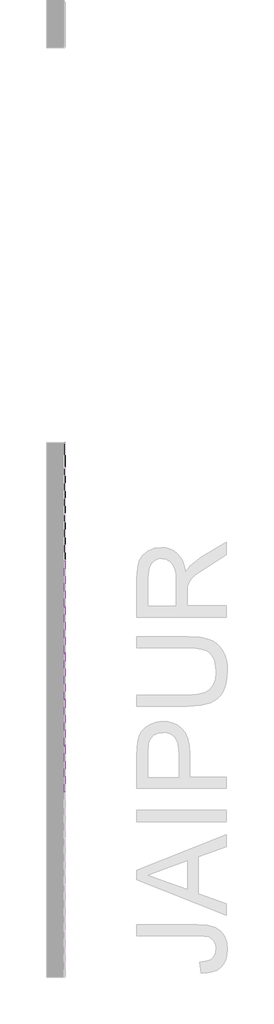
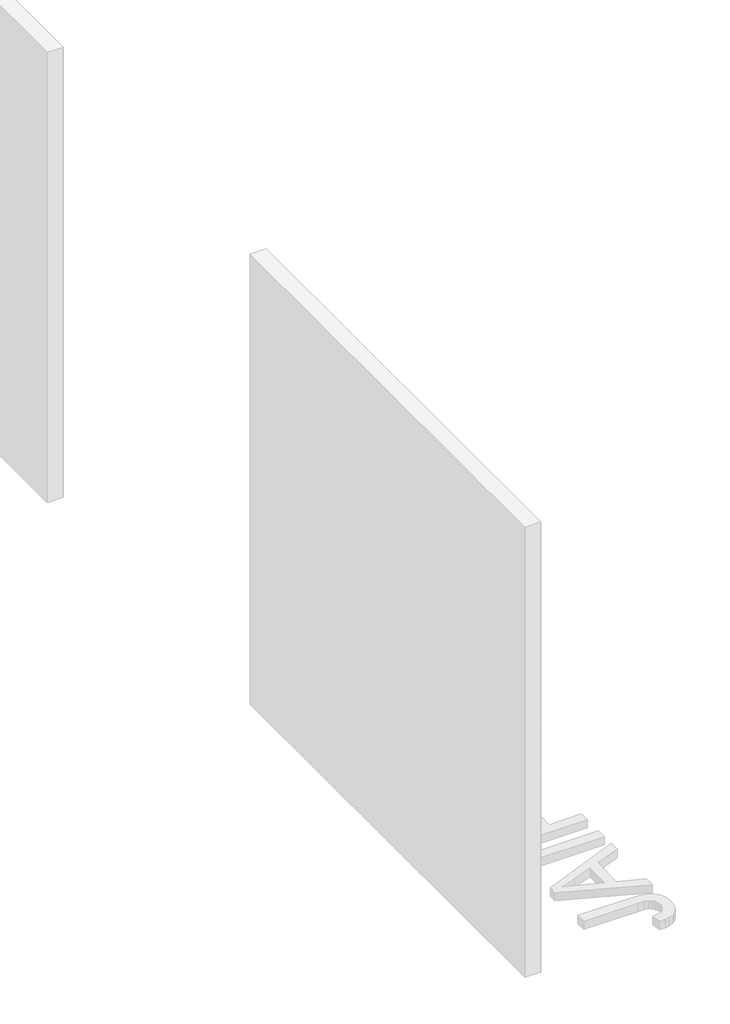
# One storey, part 17 of 45: 147 proxies.
"""IFC4 building model written with IfcOpenShell, lengths in millimetres."""

from ifc_helpers import new_model, si_unit, origin, place, context, project, spatial, transform, mapped, element, save
from components import generic_models_ab0f2c30, generic_models_1527efce

model = new_model("IFC4")

# Units and contexts
model_context = context("Model", 3, world=origin())
ifc_project = project(units=[si_unit("LENGTHUNIT", "METRE", prefix="MILLI")], contexts=[model_context])

# Site, building, storey
site = spatial("IfcSite", under=ifc_project)
building = spatial("IfcBuilding", under=site)
storey = spatial("IfcBuildingStorey", under=building, Name="PORTOBELLO - SHOWROOM", Elevation=0.0)

# Proxies
placement = place(None, origin())
generic_models_shape = generic_models_ab0f2c30(model_context)
element("IfcBuildingElementProxy", 1, Name="PBSHOP - HORIZONTES JAIPUR 6,5X23 : JAIPUR", ObjectType="PBSHOP - HORIZONTES JAIPUR 6,5X23 : JAIPUR", at=placement, inside=storey, context=model_context, shape_type="MappedRepresentation", body=[
    mapped(generic_models_shape, transform((69111.8826867, 3209.9760255, 34.5), x_axis=(0.0, 0.0, 1.0), y_axis=(0.0, -1.0, 0.0), z_axis=(1.0, 0.0, 0.0))),
])
element("IfcBuildingElementProxy", 2, Name="PBSHOP - HORIZONTES JAIPUR 6,5X23 : JAIPUR", ObjectType="PBSHOP - HORIZONTES JAIPUR 6,5X23 : JAIPUR", at=placement, inside=storey, context=model_context, shape_type="MappedRepresentation", body=[
    mapped(generic_models_shape, transform((69111.8826867, 3443.9760255, 34.5), x_axis=(0.0, 0.0, 1.0), y_axis=(0.0, -1.0, 0.0), z_axis=(1.0, 0.0, 0.0))),
])
element("IfcBuildingElementProxy", 3, Name="PBSHOP - HORIZONTES JAIPUR 6,5X23 : JAIPUR", ObjectType="PBSHOP - HORIZONTES JAIPUR 6,5X23 : JAIPUR", at=placement, inside=storey, context=model_context, shape_type="MappedRepresentation", body=[
    mapped(generic_models_shape, transform((69111.8826867, 3209.9760255, 103.5), x_axis=(0.0, 0.0, 1.0), y_axis=(0.0, -1.0, 0.0), z_axis=(1.0, 0.0, 0.0))),
])
element("IfcBuildingElementProxy", 4, Name="PBSHOP - HORIZONTES JAIPUR 6,5X23 : JAIPUR", ObjectType="PBSHOP - HORIZONTES JAIPUR 6,5X23 : JAIPUR", at=placement, inside=storey, context=model_context, shape_type="MappedRepresentation", body=[
    mapped(generic_models_shape, transform((69111.8826867, 3443.9760255, 103.5), x_axis=(0.0, 0.0, 1.0), y_axis=(0.0, -1.0, 0.0), z_axis=(1.0, 0.0, 0.0))),
])
element("IfcBuildingElementProxy", 5, Name="PBSHOP - HORIZONTES JAIPUR 6,5X23 : JAIPUR", ObjectType="PBSHOP - HORIZONTES JAIPUR 6,5X23 : JAIPUR", at=placement, inside=storey, context=model_context, shape_type="MappedRepresentation", body=[
    mapped(generic_models_shape, transform((69111.8826867, 3209.9760255, 172.5), x_axis=(0.0, 0.0, 1.0), y_axis=(0.0, -1.0, 0.0), z_axis=(1.0, 0.0, 0.0))),
])
element("IfcBuildingElementProxy", 6, Name="PBSHOP - HORIZONTES JAIPUR 6,5X23 : JAIPUR", ObjectType="PBSHOP - HORIZONTES JAIPUR 6,5X23 : JAIPUR", at=placement, inside=storey, context=model_context, shape_type="MappedRepresentation", body=[
    mapped(generic_models_shape, transform((69111.8826867, 3443.9760255, 172.5), x_axis=(0.0, 0.0, 1.0), y_axis=(0.0, -1.0, 0.0), z_axis=(1.0, 0.0, 0.0))),
])
element("IfcBuildingElementProxy", 7, Name="PBSHOP - HORIZONTES JAIPUR 6,5X23 : JAIPUR", ObjectType="PBSHOP - HORIZONTES JAIPUR 6,5X23 : JAIPUR", at=placement, inside=storey, context=model_context, shape_type="MappedRepresentation", body=[
    mapped(generic_models_shape, transform((69111.8826867, 3209.9760255, 241.5), x_axis=(0.0, 0.0, 1.0), y_axis=(0.0, -1.0, 0.0), z_axis=(1.0, 0.0, 0.0))),
])
element("IfcBuildingElementProxy", 8, Name="PBSHOP - HORIZONTES JAIPUR 6,5X23 : JAIPUR", ObjectType="PBSHOP - HORIZONTES JAIPUR 6,5X23 : JAIPUR", at=placement, inside=storey, context=model_context, shape_type="MappedRepresentation", body=[
    mapped(generic_models_shape, transform((69111.8826867, 3443.9760255, 241.5), x_axis=(0.0, 0.0, 1.0), y_axis=(0.0, -1.0, 0.0), z_axis=(1.0, 0.0, 0.0))),
])
element("IfcBuildingElementProxy", 9, Name="PBSHOP - HORIZONTES JAIPUR 6,5X23 : JAIPUR", ObjectType="PBSHOP - HORIZONTES JAIPUR 6,5X23 : JAIPUR", at=placement, inside=storey, context=model_context, shape_type="MappedRepresentation", body=[
    mapped(generic_models_shape, transform((69111.8826867, 3209.9760255, 310.5), x_axis=(0.0, 0.0, 1.0), y_axis=(0.0, -1.0, 0.0), z_axis=(1.0, 0.0, 0.0))),
])
element("IfcBuildingElementProxy", 10, Name="PBSHOP - HORIZONTES JAIPUR 6,5X23 : JAIPUR", ObjectType="PBSHOP - HORIZONTES JAIPUR 6,5X23 : JAIPUR", at=placement, inside=storey, context=model_context, shape_type="MappedRepresentation", body=[
    mapped(generic_models_shape, transform((69111.8826867, 3443.9760255, 310.5), x_axis=(0.0, 0.0, 1.0), y_axis=(0.0, -1.0, 0.0), z_axis=(1.0, 0.0, 0.0))),
])
element("IfcBuildingElementProxy", 11, Name="PBSHOP - HORIZONTES JAIPUR 6,5X23 : JAIPUR", ObjectType="PBSHOP - HORIZONTES JAIPUR 6,5X23 : JAIPUR", at=placement, inside=storey, context=model_context, shape_type="MappedRepresentation", body=[
    mapped(generic_models_shape, transform((69111.8826867, 3209.9760255, 379.5), x_axis=(0.0, 0.0, 1.0), y_axis=(0.0, -1.0, 0.0), z_axis=(1.0, 0.0, 0.0))),
])
element("IfcBuildingElementProxy", 12, Name="PBSHOP - HORIZONTES JAIPUR 6,5X23 : JAIPUR", ObjectType="PBSHOP - HORIZONTES JAIPUR 6,5X23 : JAIPUR", at=placement, inside=storey, context=model_context, shape_type="MappedRepresentation", body=[
    mapped(generic_models_shape, transform((69111.8826867, 3443.9760255, 379.5), x_axis=(0.0, 0.0, 1.0), y_axis=(0.0, -1.0, 0.0), z_axis=(1.0, 0.0, 0.0))),
])
element("IfcBuildingElementProxy", 13, Name="PBSHOP - HORIZONTES JAIPUR 6,5X23 : JAIPUR", ObjectType="PBSHOP - HORIZONTES JAIPUR 6,5X23 : JAIPUR", at=placement, inside=storey, context=model_context, shape_type="MappedRepresentation", body=[
    mapped(generic_models_shape, transform((69111.8826867, 3209.9760255, 448.5), x_axis=(0.0, 0.0, 1.0), y_axis=(0.0, -1.0, 0.0), z_axis=(1.0, 0.0, 0.0))),
])
element("IfcBuildingElementProxy", 14, Name="PBSHOP - HORIZONTES JAIPUR 6,5X23 : JAIPUR", ObjectType="PBSHOP - HORIZONTES JAIPUR 6,5X23 : JAIPUR", at=placement, inside=storey, context=model_context, shape_type="MappedRepresentation", body=[
    mapped(generic_models_shape, transform((69111.8826867, 3443.9760255, 448.5), x_axis=(0.0, 0.0, 1.0), y_axis=(0.0, -1.0, 0.0), z_axis=(1.0, 0.0, 0.0))),
])
element("IfcBuildingElementProxy", 15, Name="PBSHOP - HORIZONTES JAIPUR 6,5X23 : JAIPUR", ObjectType="PBSHOP - HORIZONTES JAIPUR 6,5X23 : JAIPUR", at=placement, inside=storey, context=model_context, shape_type="MappedRepresentation", body=[
    mapped(generic_models_shape, transform((69111.8826867, 3209.9760255, 517.5), x_axis=(0.0, 0.0, 1.0), y_axis=(0.0, -1.0, 0.0), z_axis=(1.0, 0.0, 0.0))),
])
element("IfcBuildingElementProxy", 16, Name="PBSHOP - HORIZONTES JAIPUR 6,5X23 : JAIPUR", ObjectType="PBSHOP - HORIZONTES JAIPUR 6,5X23 : JAIPUR", at=placement, inside=storey, context=model_context, shape_type="MappedRepresentation", body=[
    mapped(generic_models_shape, transform((69111.8826867, 3443.9760255, 517.5), x_axis=(0.0, 0.0, 1.0), y_axis=(0.0, -1.0, 0.0), z_axis=(1.0, 0.0, 0.0))),
])
element("IfcBuildingElementProxy", 17, Name="PBSHOP - HORIZONTES JAIPUR 6,5X23 : JAIPUR", ObjectType="PBSHOP - HORIZONTES JAIPUR 6,5X23 : JAIPUR", at=placement, inside=storey, context=model_context, shape_type="MappedRepresentation", body=[
    mapped(generic_models_shape, transform((69111.8826867, 3209.9760255, 586.5), x_axis=(0.0, 0.0, 1.0), y_axis=(0.0, -1.0, 0.0), z_axis=(1.0, 0.0, 0.0))),
])
element("IfcBuildingElementProxy", 18, Name="PBSHOP - HORIZONTES JAIPUR 6,5X23 : JAIPUR", ObjectType="PBSHOP - HORIZONTES JAIPUR 6,5X23 : JAIPUR", at=placement, inside=storey, context=model_context, shape_type="MappedRepresentation", body=[
    mapped(generic_models_shape, transform((69111.8826867, 3443.9760255, 586.5), x_axis=(0.0, 0.0, 1.0), y_axis=(0.0, -1.0, 0.0), z_axis=(1.0, 0.0, 0.0))),
])
element("IfcBuildingElementProxy", 19, Name="PBSHOP - HORIZONTES JAIPUR 6,5X23 : JAIPUR", ObjectType="PBSHOP - HORIZONTES JAIPUR 6,5X23 : JAIPUR", at=placement, inside=storey, context=model_context, shape_type="MappedRepresentation", body=[
    mapped(generic_models_shape, transform((69111.8826867, 3209.9760255, 655.5), x_axis=(0.0, 0.0, 1.0), y_axis=(0.0, -1.0, 0.0), z_axis=(1.0, 0.0, 0.0))),
])
element("IfcBuildingElementProxy", 20, Name="PBSHOP - HORIZONTES JAIPUR 6,5X23 : JAIPUR", ObjectType="PBSHOP - HORIZONTES JAIPUR 6,5X23 : JAIPUR", at=placement, inside=storey, context=model_context, shape_type="MappedRepresentation", body=[
    mapped(generic_models_shape, transform((69111.8826867, 3443.9760255, 655.5), x_axis=(0.0, 0.0, 1.0), y_axis=(0.0, -1.0, 0.0), z_axis=(1.0, 0.0, 0.0))),
])
element("IfcBuildingElementProxy", 21, Name="PBSHOP - HORIZONTES JAIPUR 6,5X23 : JAIPUR", ObjectType="PBSHOP - HORIZONTES JAIPUR 6,5X23 : JAIPUR", at=placement, inside=storey, context=model_context, shape_type="MappedRepresentation", body=[
    mapped(generic_models_shape, transform((69111.8826867, 3209.9760255, 724.5), x_axis=(0.0, 0.0, 1.0), y_axis=(0.0, -1.0, 0.0), z_axis=(1.0, 0.0, 0.0))),
])
element("IfcBuildingElementProxy", 22, Name="PBSHOP - HORIZONTES JAIPUR 6,5X23 : JAIPUR", ObjectType="PBSHOP - HORIZONTES JAIPUR 6,5X23 : JAIPUR", at=placement, inside=storey, context=model_context, shape_type="MappedRepresentation", body=[
    mapped(generic_models_shape, transform((69111.8826867, 3443.9760255, 724.5), x_axis=(0.0, 0.0, 1.0), y_axis=(0.0, -1.0, 0.0), z_axis=(1.0, 0.0, 0.0))),
])
element("IfcBuildingElementProxy", 23, Name="PBSHOP - HORIZONTES JAIPUR 6,5X23 : JAIPUR", ObjectType="PBSHOP - HORIZONTES JAIPUR 6,5X23 : JAIPUR", at=placement, inside=storey, context=model_context, shape_type="MappedRepresentation", body=[
    mapped(generic_models_shape, transform((69111.8826867, 3209.9760255, 793.5), x_axis=(0.0, 0.0, 1.0), y_axis=(0.0, -1.0, 0.0), z_axis=(1.0, 0.0, 0.0))),
])
element("IfcBuildingElementProxy", 24, Name="PBSHOP - HORIZONTES JAIPUR 6,5X23 : JAIPUR", ObjectType="PBSHOP - HORIZONTES JAIPUR 6,5X23 : JAIPUR", at=placement, inside=storey, context=model_context, shape_type="MappedRepresentation", body=[
    mapped(generic_models_shape, transform((69111.8826867, 3443.9760255, 793.5), x_axis=(0.0, 0.0, 1.0), y_axis=(0.0, -1.0, 0.0), z_axis=(1.0, 0.0, 0.0))),
])
element("IfcBuildingElementProxy", 25, Name="PBSHOP - HORIZONTES JAIPUR 6,5X23 : JAIPUR", ObjectType="PBSHOP - HORIZONTES JAIPUR 6,5X23 : JAIPUR", at=placement, inside=storey, context=model_context, shape_type="MappedRepresentation", body=[
    mapped(generic_models_shape, transform((69111.8826867, 3209.9760255, 862.5), x_axis=(0.0, 0.0, 1.0), y_axis=(0.0, -1.0, 0.0), z_axis=(1.0, 0.0, 0.0))),
])
element("IfcBuildingElementProxy", 26, Name="PBSHOP - HORIZONTES JAIPUR 6,5X23 : JAIPUR", ObjectType="PBSHOP - HORIZONTES JAIPUR 6,5X23 : JAIPUR", at=placement, inside=storey, context=model_context, shape_type="MappedRepresentation", body=[
    mapped(generic_models_shape, transform((69111.8826867, 3443.9760255, 862.5), x_axis=(0.0, 0.0, 1.0), y_axis=(0.0, -1.0, 0.0), z_axis=(1.0, 0.0, 0.0))),
])
element("IfcBuildingElementProxy", 27, Name="PBSHOP - HORIZONTES JAIPUR 6,5X23 : JAIPUR", ObjectType="PBSHOP - HORIZONTES JAIPUR 6,5X23 : JAIPUR", at=placement, inside=storey, context=model_context, shape_type="MappedRepresentation", body=[
    mapped(generic_models_shape, transform((69111.8826867, 3209.9760255, 931.5), x_axis=(0.0, 0.0, 1.0), y_axis=(0.0, -1.0, 0.0), z_axis=(1.0, 0.0, 0.0))),
])
element("IfcBuildingElementProxy", 28, Name="PBSHOP - HORIZONTES JAIPUR 6,5X23 : JAIPUR", ObjectType="PBSHOP - HORIZONTES JAIPUR 6,5X23 : JAIPUR", at=placement, inside=storey, context=model_context, shape_type="MappedRepresentation", body=[
    mapped(generic_models_shape, transform((69111.8826867, 3443.9760255, 931.5), x_axis=(0.0, 0.0, 1.0), y_axis=(0.0, -1.0, 0.0), z_axis=(1.0, 0.0, 0.0))),
])
element("IfcBuildingElementProxy", 29, Name="PBSHOP - HORIZONTES JAIPUR 6,5X23 : JAIPUR", ObjectType="PBSHOP - HORIZONTES JAIPUR 6,5X23 : JAIPUR", at=placement, inside=storey, context=model_context, shape_type="MappedRepresentation", body=[
    mapped(generic_models_shape, transform((69111.8826867, 3209.9760255, 1000.5), x_axis=(0.0, 0.0, 1.0), y_axis=(0.0, -1.0, 0.0), z_axis=(1.0, 0.0, 0.0))),
])
element("IfcBuildingElementProxy", 30, Name="PBSHOP - HORIZONTES JAIPUR 6,5X23 : JAIPUR", ObjectType="PBSHOP - HORIZONTES JAIPUR 6,5X23 : JAIPUR", at=placement, inside=storey, context=model_context, shape_type="MappedRepresentation", body=[
    mapped(generic_models_shape, transform((69111.8826867, 3443.9760255, 1000.5), x_axis=(0.0, 0.0, 1.0), y_axis=(0.0, -1.0, 0.0), z_axis=(1.0, 0.0, 0.0))),
])
element("IfcBuildingElementProxy", 31, Name="PBSHOP - HORIZONTES JAIPUR 6,5X23 : JAIPUR", ObjectType="PBSHOP - HORIZONTES JAIPUR 6,5X23 : JAIPUR", at=placement, inside=storey, context=model_context, shape_type="MappedRepresentation", body=[
    mapped(generic_models_shape, transform((69111.8826867, 3209.9760255, 1069.5), x_axis=(0.0, 0.0, 1.0), y_axis=(0.0, -1.0, 0.0), z_axis=(1.0, 0.0, 0.0))),
])
element("IfcBuildingElementProxy", 32, Name="PBSHOP - HORIZONTES JAIPUR 6,5X23 : JAIPUR", ObjectType="PBSHOP - HORIZONTES JAIPUR 6,5X23 : JAIPUR", at=placement, inside=storey, context=model_context, shape_type="MappedRepresentation", body=[
    mapped(generic_models_shape, transform((69111.8826867, 3443.9760255, 1069.5), x_axis=(0.0, 0.0, 1.0), y_axis=(0.0, -1.0, 0.0), z_axis=(1.0, 0.0, 0.0))),
])
element("IfcBuildingElementProxy", 33, Name="PBSHOP - HORIZONTES JAIPUR 6,5X23 : JAIPUR", ObjectType="PBSHOP - HORIZONTES JAIPUR 6,5X23 : JAIPUR", at=placement, inside=storey, context=model_context, shape_type="MappedRepresentation", body=[
    mapped(generic_models_shape, transform((69111.8826867, 3209.9760255, 1138.5), x_axis=(0.0, 0.0, 1.0), y_axis=(0.0, -1.0, 0.0), z_axis=(1.0, 0.0, 0.0))),
])
element("IfcBuildingElementProxy", 34, Name="PBSHOP - HORIZONTES JAIPUR 6,5X23 : JAIPUR", ObjectType="PBSHOP - HORIZONTES JAIPUR 6,5X23 : JAIPUR", at=placement, inside=storey, context=model_context, shape_type="MappedRepresentation", body=[
    mapped(generic_models_shape, transform((69111.8826867, 3443.9760255, 1138.5), x_axis=(0.0, 0.0, 1.0), y_axis=(0.0, -1.0, 0.0), z_axis=(1.0, 0.0, 0.0))),
])
element("IfcBuildingElementProxy", 35, Name="PBSHOP - HORIZONTES JAIPUR 6,5X23 : JAIPUR", ObjectType="PBSHOP - HORIZONTES JAIPUR 6,5X23 : JAIPUR", at=placement, inside=storey, context=model_context, shape_type="MappedRepresentation", body=[
    mapped(generic_models_shape, transform((69111.8826867, 3209.9760255, 1207.5), x_axis=(0.0, 0.0, 1.0), y_axis=(0.0, -1.0, 0.0), z_axis=(1.0, 0.0, 0.0))),
])
element("IfcBuildingElementProxy", 36, Name="PBSHOP - HORIZONTES JAIPUR 6,5X23 : JAIPUR", ObjectType="PBSHOP - HORIZONTES JAIPUR 6,5X23 : JAIPUR", at=placement, inside=storey, context=model_context, shape_type="MappedRepresentation", body=[
    mapped(generic_models_shape, transform((69111.8826867, 3443.9760255, 1207.5), x_axis=(0.0, 0.0, 1.0), y_axis=(0.0, -1.0, 0.0), z_axis=(1.0, 0.0, 0.0))),
])
element("IfcBuildingElementProxy", 37, Name="PBSHOP - HORIZONTES JAIPUR 6,5X23 : JAIPUR", ObjectType="PBSHOP - HORIZONTES JAIPUR 6,5X23 : JAIPUR", at=placement, inside=storey, context=model_context, shape_type="MappedRepresentation", body=[
    mapped(generic_models_shape, transform((69111.8826867, 3209.9760255, 1276.5), x_axis=(0.0, 0.0, 1.0), y_axis=(0.0, -1.0, 0.0), z_axis=(1.0, 0.0, 0.0))),
])
element("IfcBuildingElementProxy", 38, Name="PBSHOP - HORIZONTES JAIPUR 6,5X23 : JAIPUR", ObjectType="PBSHOP - HORIZONTES JAIPUR 6,5X23 : JAIPUR", at=placement, inside=storey, context=model_context, shape_type="MappedRepresentation", body=[
    mapped(generic_models_shape, transform((69111.8826867, 3443.9760255, 1276.5), x_axis=(0.0, 0.0, 1.0), y_axis=(0.0, -1.0, 0.0), z_axis=(1.0, 0.0, 0.0))),
])
element("IfcBuildingElementProxy", 39, Name="PBSHOP - HORIZONTES JAIPUR 6,5X23 : JAIPUR", ObjectType="PBSHOP - HORIZONTES JAIPUR 6,5X23 : JAIPUR", at=placement, inside=storey, context=model_context, shape_type="MappedRepresentation", body=[
    mapped(generic_models_shape, transform((69111.8826867, 3209.9760255, 1345.5), x_axis=(0.0, 0.0, 1.0), y_axis=(0.0, -1.0, 0.0), z_axis=(1.0, 0.0, 0.0))),
])
element("IfcBuildingElementProxy", 40, Name="PBSHOP - HORIZONTES JAIPUR 6,5X23 : JAIPUR", ObjectType="PBSHOP - HORIZONTES JAIPUR 6,5X23 : JAIPUR", at=placement, inside=storey, context=model_context, shape_type="MappedRepresentation", body=[
    mapped(generic_models_shape, transform((69111.8826867, 3443.9760255, 1345.5), x_axis=(0.0, 0.0, 1.0), y_axis=(0.0, -1.0, 0.0), z_axis=(1.0, 0.0, 0.0))),
])
element("IfcBuildingElementProxy", 41, Name="PBSHOP - HORIZONTES JAIPUR 6,5X23 : JAIPUR", ObjectType="PBSHOP - HORIZONTES JAIPUR 6,5X23 : JAIPUR", at=placement, inside=storey, context=model_context, shape_type="MappedRepresentation", body=[
    mapped(generic_models_shape, transform((69111.8826867, 3209.9760255, 1414.5), x_axis=(0.0, 0.0, 1.0), y_axis=(0.0, -1.0, 0.0), z_axis=(1.0, 0.0, 0.0))),
])
element("IfcBuildingElementProxy", 42, Name="PBSHOP - HORIZONTES JAIPUR 6,5X23 : JAIPUR", ObjectType="PBSHOP - HORIZONTES JAIPUR 6,5X23 : JAIPUR", at=placement, inside=storey, context=model_context, shape_type="MappedRepresentation", body=[
    mapped(generic_models_shape, transform((69111.8826867, 3443.9760255, 1414.5), x_axis=(0.0, 0.0, 1.0), y_axis=(0.0, -1.0, 0.0), z_axis=(1.0, 0.0, 0.0))),
])
element("IfcBuildingElementProxy", 43, Name="PBSHOP - HORIZONTES JAIPUR 6,5X23 : JAIPUR", ObjectType="PBSHOP - HORIZONTES JAIPUR 6,5X23 : JAIPUR", at=placement, inside=storey, context=model_context, shape_type="MappedRepresentation", body=[
    mapped(generic_models_shape, transform((69111.8826867, 3209.9760255, 1483.5), x_axis=(0.0, 0.0, 1.0), y_axis=(0.0, -1.0, 0.0), z_axis=(1.0, 0.0, 0.0))),
])
element("IfcBuildingElementProxy", 44, Name="PBSHOP - HORIZONTES JAIPUR 6,5X23 : JAIPUR", ObjectType="PBSHOP - HORIZONTES JAIPUR 6,5X23 : JAIPUR", at=placement, inside=storey, context=model_context, shape_type="MappedRepresentation", body=[
    mapped(generic_models_shape, transform((69111.8826867, 3443.9760255, 1483.5), x_axis=(0.0, 0.0, 1.0), y_axis=(0.0, -1.0, 0.0), z_axis=(1.0, 0.0, 0.0))),
])
element("IfcBuildingElementProxy", 45, Name="PBSHOP - HORIZONTES JAIPUR 6,5X23 : JAIPUR", ObjectType="PBSHOP - HORIZONTES JAIPUR 6,5X23 : JAIPUR", at=placement, inside=storey, context=model_context, shape_type="MappedRepresentation", body=[
    mapped(generic_models_shape, transform((69111.8826867, 3209.9760255, 1552.5), x_axis=(0.0, 0.0, 1.0), y_axis=(0.0, -1.0, 0.0), z_axis=(1.0, 0.0, 0.0))),
])
element("IfcBuildingElementProxy", 46, Name="PBSHOP - HORIZONTES JAIPUR 6,5X23 : JAIPUR", ObjectType="PBSHOP - HORIZONTES JAIPUR 6,5X23 : JAIPUR", at=placement, inside=storey, context=model_context, shape_type="MappedRepresentation", body=[
    mapped(generic_models_shape, transform((69111.8826867, 3443.9760255, 1552.5), x_axis=(0.0, 0.0, 1.0), y_axis=(0.0, -1.0, 0.0), z_axis=(1.0, 0.0, 0.0))),
])
element("IfcBuildingElementProxy", 47, Name="PBSHOP - HORIZONTES JAIPUR 6,5X23 : JAIPUR", ObjectType="PBSHOP - HORIZONTES JAIPUR 6,5X23 : JAIPUR", at=placement, inside=storey, context=model_context, shape_type="MappedRepresentation", body=[
    mapped(generic_models_shape, transform((69111.8826867, 3209.9760255, 1621.5), x_axis=(0.0, 0.0, 1.0), y_axis=(0.0, -1.0, 0.0), z_axis=(1.0, 0.0, 0.0))),
])
element("IfcBuildingElementProxy", 48, Name="PBSHOP - HORIZONTES JAIPUR 6,5X23 : JAIPUR", ObjectType="PBSHOP - HORIZONTES JAIPUR 6,5X23 : JAIPUR", at=placement, inside=storey, context=model_context, shape_type="MappedRepresentation", body=[
    mapped(generic_models_shape, transform((69111.8826867, 3443.9760255, 1621.5), x_axis=(0.0, 0.0, 1.0), y_axis=(0.0, -1.0, 0.0), z_axis=(1.0, 0.0, 0.0))),
])
element("IfcBuildingElementProxy", 49, Name="PBSHOP - HORIZONTES JAIPUR 6,5X23 : JAIPUR", ObjectType="PBSHOP - HORIZONTES JAIPUR 6,5X23 : JAIPUR", at=placement, inside=storey, context=model_context, shape_type="MappedRepresentation", body=[
    mapped(generic_models_shape, transform((69111.8826867, 2975.9760255, 1690.5), x_axis=(0.0, 0.0, 1.0), y_axis=(0.0, -1.0, 0.0), z_axis=(1.0, 0.0, 0.0))),
])
element("IfcBuildingElementProxy", 50, Name="PBSHOP - HORIZONTES JAIPUR 6,5X23 : JAIPUR", ObjectType="PBSHOP - HORIZONTES JAIPUR 6,5X23 : JAIPUR", at=placement, inside=storey, context=model_context, shape_type="MappedRepresentation", body=[
    mapped(generic_models_shape, transform((69111.8826867, 3209.9760255, 1690.5), x_axis=(0.0, 0.0, 1.0), y_axis=(0.0, -1.0, 0.0), z_axis=(1.0, 0.0, 0.0))),
])
element("IfcBuildingElementProxy", 51, Name="PBSHOP - HORIZONTES JAIPUR 6,5X23 : JAIPUR", ObjectType="PBSHOP - HORIZONTES JAIPUR 6,5X23 : JAIPUR", at=placement, inside=storey, context=model_context, shape_type="MappedRepresentation", body=[
    mapped(generic_models_shape, transform((69111.8826867, 3443.9760255, 1690.5), x_axis=(0.0, 0.0, 1.0), y_axis=(0.0, -1.0, 0.0), z_axis=(1.0, 0.0, 0.0))),
])
element("IfcBuildingElementProxy", 52, Name="PBSHOP - HORIZONTES JAIPUR 6,5X23 : JAIPUR", ObjectType="PBSHOP - HORIZONTES JAIPUR 6,5X23 : JAIPUR", at=placement, inside=storey, context=model_context, shape_type="MappedRepresentation", body=[
    mapped(generic_models_shape, transform((69111.8826867, 2039.9760255, 1759.5), x_axis=(0.0, 0.0, 1.0), y_axis=(0.0, -1.0, 0.0), z_axis=(1.0, 0.0, 0.0))),
])
element("IfcBuildingElementProxy", 53, Name="PBSHOP - HORIZONTES JAIPUR 6,5X23 : JAIPUR", ObjectType="PBSHOP - HORIZONTES JAIPUR 6,5X23 : JAIPUR", at=placement, inside=storey, context=model_context, shape_type="MappedRepresentation", body=[
    mapped(generic_models_shape, transform((69111.8826867, 2273.9760255, 1759.5), x_axis=(0.0, 0.0, 1.0), y_axis=(0.0, -1.0, 0.0), z_axis=(1.0, 0.0, 0.0))),
])
element("IfcBuildingElementProxy", 54, Name="PBSHOP - HORIZONTES JAIPUR 6,5X23 : JAIPUR", ObjectType="PBSHOP - HORIZONTES JAIPUR 6,5X23 : JAIPUR", at=placement, inside=storey, context=model_context, shape_type="MappedRepresentation", body=[
    mapped(generic_models_shape, transform((69111.8826867, 2507.9760255, 1759.5), x_axis=(0.0, 0.0, 1.0), y_axis=(0.0, -1.0, 0.0), z_axis=(1.0, 0.0, 0.0))),
])
element("IfcBuildingElementProxy", 55, Name="PBSHOP - HORIZONTES JAIPUR 6,5X23 : JAIPUR", ObjectType="PBSHOP - HORIZONTES JAIPUR 6,5X23 : JAIPUR", at=placement, inside=storey, context=model_context, shape_type="MappedRepresentation", body=[
    mapped(generic_models_shape, transform((69111.8826867, 2741.9760255, 1759.5), x_axis=(0.0, 0.0, 1.0), y_axis=(0.0, -1.0, 0.0), z_axis=(1.0, 0.0, 0.0))),
])
element("IfcBuildingElementProxy", 56, Name="PBSHOP - HORIZONTES JAIPUR 6,5X23 : JAIPUR", ObjectType="PBSHOP - HORIZONTES JAIPUR 6,5X23 : JAIPUR", at=placement, inside=storey, context=model_context, shape_type="MappedRepresentation", body=[
    mapped(generic_models_shape, transform((69111.8826867, 2975.9760255, 1759.5), x_axis=(0.0, 0.0, 1.0), y_axis=(0.0, -1.0, 0.0), z_axis=(1.0, 0.0, 0.0))),
])
element("IfcBuildingElementProxy", 57, Name="PBSHOP - HORIZONTES JAIPUR 6,5X23 : JAIPUR", ObjectType="PBSHOP - HORIZONTES JAIPUR 6,5X23 : JAIPUR", at=placement, inside=storey, context=model_context, shape_type="MappedRepresentation", body=[
    mapped(generic_models_shape, transform((69111.8826867, 3209.9760255, 1759.5), x_axis=(0.0, 0.0, 1.0), y_axis=(0.0, -1.0, 0.0), z_axis=(1.0, 0.0, 0.0))),
])
element("IfcBuildingElementProxy", 58, Name="PBSHOP - HORIZONTES JAIPUR 6,5X23 : JAIPUR", ObjectType="PBSHOP - HORIZONTES JAIPUR 6,5X23 : JAIPUR", at=placement, inside=storey, context=model_context, shape_type="MappedRepresentation", body=[
    mapped(generic_models_shape, transform((69111.8826867, 2039.9760255, 1828.5), x_axis=(0.0, 0.0, 1.0), y_axis=(0.0, -1.0, 0.0), z_axis=(1.0, 0.0, 0.0))),
])
element("IfcBuildingElementProxy", 59, Name="PBSHOP - HORIZONTES JAIPUR 6,5X23 : JAIPUR", ObjectType="PBSHOP - HORIZONTES JAIPUR 6,5X23 : JAIPUR", at=placement, inside=storey, context=model_context, shape_type="MappedRepresentation", body=[
    mapped(generic_models_shape, transform((69111.8826867, 2273.9760255, 1828.5), x_axis=(0.0, 0.0, 1.0), y_axis=(0.0, -1.0, 0.0), z_axis=(1.0, 0.0, 0.0))),
])
element("IfcBuildingElementProxy", 60, Name="PBSHOP - HORIZONTES JAIPUR 6,5X23 : JAIPUR", ObjectType="PBSHOP - HORIZONTES JAIPUR 6,5X23 : JAIPUR", at=placement, inside=storey, context=model_context, shape_type="MappedRepresentation", body=[
    mapped(generic_models_shape, transform((69111.8826867, 2507.9760255, 1828.5), x_axis=(0.0, 0.0, 1.0), y_axis=(0.0, -1.0, 0.0), z_axis=(1.0, 0.0, 0.0))),
])
element("IfcBuildingElementProxy", 61, Name="PBSHOP - HORIZONTES JAIPUR 6,5X23 : JAIPUR", ObjectType="PBSHOP - HORIZONTES JAIPUR 6,5X23 : JAIPUR", at=placement, inside=storey, context=model_context, shape_type="MappedRepresentation", body=[
    mapped(generic_models_shape, transform((69111.8826867, 2741.9760255, 1828.5), x_axis=(0.0, 0.0, 1.0), y_axis=(0.0, -1.0, 0.0), z_axis=(1.0, 0.0, 0.0))),
])
element("IfcBuildingElementProxy", 62, Name="PBSHOP - HORIZONTES JAIPUR 6,5X23 : JAIPUR", ObjectType="PBSHOP - HORIZONTES JAIPUR 6,5X23 : JAIPUR", at=placement, inside=storey, context=model_context, shape_type="MappedRepresentation", body=[
    mapped(generic_models_shape, transform((69111.8826867, 2975.9760255, 1828.5), x_axis=(0.0, 0.0, 1.0), y_axis=(0.0, -1.0, 0.0), z_axis=(1.0, 0.0, 0.0))),
])
element("IfcBuildingElementProxy", 63, Name="PBSHOP - HORIZONTES JAIPUR 6,5X23 : JAIPUR", ObjectType="PBSHOP - HORIZONTES JAIPUR 6,5X23 : JAIPUR", at=placement, inside=storey, context=model_context, shape_type="MappedRepresentation", body=[
    mapped(generic_models_shape, transform((69111.8826867, 2039.9760255, 1897.5), x_axis=(0.0, 0.0, 1.0), y_axis=(0.0, -1.0, 0.0), z_axis=(1.0, 0.0, 0.0))),
])
element("IfcBuildingElementProxy", 64, Name="PBSHOP - HORIZONTES JAIPUR 6,5X23 : JAIPUR", ObjectType="PBSHOP - HORIZONTES JAIPUR 6,5X23 : JAIPUR", at=placement, inside=storey, context=model_context, shape_type="MappedRepresentation", body=[
    mapped(generic_models_shape, transform((69111.8826867, 2273.9760255, 1897.5), x_axis=(0.0, 0.0, 1.0), y_axis=(0.0, -1.0, 0.0), z_axis=(1.0, 0.0, 0.0))),
])
element("IfcBuildingElementProxy", 65, Name="PBSHOP - HORIZONTES JAIPUR 6,5X23 : JAIPUR", ObjectType="PBSHOP - HORIZONTES JAIPUR 6,5X23 : JAIPUR", at=placement, inside=storey, context=model_context, shape_type="MappedRepresentation", body=[
    mapped(generic_models_shape, transform((69111.8826867, 2507.9760255, 1897.5), x_axis=(0.0, 0.0, 1.0), y_axis=(0.0, -1.0, 0.0), z_axis=(1.0, 0.0, 0.0))),
])
element("IfcBuildingElementProxy", 66, Name="PBSHOP - HORIZONTES JAIPUR 6,5X23 : JAIPUR", ObjectType="PBSHOP - HORIZONTES JAIPUR 6,5X23 : JAIPUR", at=placement, inside=storey, context=model_context, shape_type="MappedRepresentation", body=[
    mapped(generic_models_shape, transform((69111.8826867, 2741.9760255, 1897.5), x_axis=(0.0, 0.0, 1.0), y_axis=(0.0, -1.0, 0.0), z_axis=(1.0, 0.0, 0.0))),
])
element("IfcBuildingElementProxy", 67, Name="PBSHOP - HORIZONTES JAIPUR 6,5X23 : JAIPUR", ObjectType="PBSHOP - HORIZONTES JAIPUR 6,5X23 : JAIPUR", at=placement, inside=storey, context=model_context, shape_type="MappedRepresentation", body=[
    mapped(generic_models_shape, transform((69111.8826867, 2975.9760255, 1897.5), x_axis=(0.0, 0.0, 1.0), y_axis=(0.0, -1.0, 0.0), z_axis=(1.0, 0.0, 0.0))),
])
element("IfcBuildingElementProxy", 68, Name="PBSHOP - HORIZONTES JAIPUR 6,5X23 : JAIPUR", ObjectType="PBSHOP - HORIZONTES JAIPUR 6,5X23 : JAIPUR", at=placement, inside=storey, context=model_context, shape_type="MappedRepresentation", body=[
    mapped(generic_models_shape, transform((69111.8826867, 2039.9760255, 1966.5), x_axis=(0.0, 0.0, 1.0), y_axis=(0.0, -1.0, 0.0), z_axis=(1.0, 0.0, 0.0))),
])
element("IfcBuildingElementProxy", 69, Name="PBSHOP - HORIZONTES JAIPUR 6,5X23 : JAIPUR", ObjectType="PBSHOP - HORIZONTES JAIPUR 6,5X23 : JAIPUR", at=placement, inside=storey, context=model_context, shape_type="MappedRepresentation", body=[
    mapped(generic_models_shape, transform((69111.8826867, 2273.9760255, 1966.5), x_axis=(0.0, 0.0, 1.0), y_axis=(0.0, -1.0, 0.0), z_axis=(1.0, 0.0, 0.0))),
])
element("IfcBuildingElementProxy", 70, Name="PBSHOP - HORIZONTES JAIPUR 6,5X23 : JAIPUR", ObjectType="PBSHOP - HORIZONTES JAIPUR 6,5X23 : JAIPUR", at=placement, inside=storey, context=model_context, shape_type="MappedRepresentation", body=[
    mapped(generic_models_shape, transform((69111.8826867, 2507.9760255, 1966.5), x_axis=(0.0, 0.0, 1.0), y_axis=(0.0, -1.0, 0.0), z_axis=(1.0, 0.0, 0.0))),
])
element("IfcBuildingElementProxy", 71, Name="PBSHOP - HORIZONTES JAIPUR 6,5X23 : JAIPUR", ObjectType="PBSHOP - HORIZONTES JAIPUR 6,5X23 : JAIPUR", at=placement, inside=storey, context=model_context, shape_type="MappedRepresentation", body=[
    mapped(generic_models_shape, transform((69111.8826867, 2741.9760255, 1966.5), x_axis=(0.0, 0.0, 1.0), y_axis=(0.0, -1.0, 0.0), z_axis=(1.0, 0.0, 0.0))),
])
element("IfcBuildingElementProxy", 72, Name="PBSHOP - HORIZONTES JAIPUR 6,5X23 : JAIPUR", ObjectType="PBSHOP - HORIZONTES JAIPUR 6,5X23 : JAIPUR", at=placement, inside=storey, context=model_context, shape_type="MappedRepresentation", body=[
    mapped(generic_models_shape, transform((69111.8826867, 2975.9760255, 1966.5), x_axis=(0.0, 0.0, 1.0), y_axis=(0.0, -1.0, 0.0), z_axis=(1.0, 0.0, 0.0))),
])
element("IfcBuildingElementProxy", 73, Name="PBSHOP - HORIZONTES JAIPUR 6,5X23 : JAIPUR", ObjectType="PBSHOP - HORIZONTES JAIPUR 6,5X23 : JAIPUR", at=placement, inside=storey, context=model_context, shape_type="MappedRepresentation", body=[
    mapped(generic_models_shape, transform((69111.8826867, 2039.9760255, 2035.5), x_axis=(0.0, 0.0, 1.0), y_axis=(0.0, -1.0, 0.0), z_axis=(1.0, 0.0, 0.0))),
])
element("IfcBuildingElementProxy", 74, Name="PBSHOP - HORIZONTES JAIPUR 6,5X23 : JAIPUR", ObjectType="PBSHOP - HORIZONTES JAIPUR 6,5X23 : JAIPUR", at=placement, inside=storey, context=model_context, shape_type="MappedRepresentation", body=[
    mapped(generic_models_shape, transform((69111.8826867, 2273.9760255, 2035.5), x_axis=(0.0, 0.0, 1.0), y_axis=(0.0, -1.0, 0.0), z_axis=(1.0, 0.0, 0.0))),
])
element("IfcBuildingElementProxy", 75, Name="PBSHOP - HORIZONTES JAIPUR 6,5X23 : JAIPUR", ObjectType="PBSHOP - HORIZONTES JAIPUR 6,5X23 : JAIPUR", at=placement, inside=storey, context=model_context, shape_type="MappedRepresentation", body=[
    mapped(generic_models_shape, transform((69111.8826867, 2507.9760255, 2035.5), x_axis=(0.0, 0.0, 1.0), y_axis=(0.0, -1.0, 0.0), z_axis=(1.0, 0.0, 0.0))),
])
element("IfcBuildingElementProxy", 76, Name="PBSHOP - HORIZONTES JAIPUR 6,5X23 : JAIPUR", ObjectType="PBSHOP - HORIZONTES JAIPUR 6,5X23 : JAIPUR", at=placement, inside=storey, context=model_context, shape_type="MappedRepresentation", body=[
    mapped(generic_models_shape, transform((69111.8826867, 2741.9760255, 2035.5), x_axis=(0.0, 0.0, 1.0), y_axis=(0.0, -1.0, 0.0), z_axis=(1.0, 0.0, 0.0))),
])
element("IfcBuildingElementProxy", 77, Name="PBSHOP - HORIZONTES JAIPUR 6,5X23 : JAIPUR", ObjectType="PBSHOP - HORIZONTES JAIPUR 6,5X23 : JAIPUR", at=placement, inside=storey, context=model_context, shape_type="MappedRepresentation", body=[
    mapped(generic_models_shape, transform((69111.8826867, 2975.9760255, 2035.5), x_axis=(0.0, 0.0, 1.0), y_axis=(0.0, -1.0, 0.0), z_axis=(1.0, 0.0, 0.0))),
])
element("IfcBuildingElementProxy", 78, Name="PBSHOP - HORIZONTES JAIPUR 6,5X23 : JAIPUR", ObjectType="PBSHOP - HORIZONTES JAIPUR 6,5X23 : JAIPUR", at=placement, inside=storey, context=model_context, shape_type="MappedRepresentation", body=[
    mapped(generic_models_shape, transform((69111.8826867, 2039.9760255, 2104.5), x_axis=(0.0, 0.0, 1.0), y_axis=(0.0, -1.0, 0.0), z_axis=(1.0, 0.0, 0.0))),
])
element("IfcBuildingElementProxy", 79, Name="PBSHOP - HORIZONTES JAIPUR 6,5X23 : JAIPUR", ObjectType="PBSHOP - HORIZONTES JAIPUR 6,5X23 : JAIPUR", at=placement, inside=storey, context=model_context, shape_type="MappedRepresentation", body=[
    mapped(generic_models_shape, transform((69111.8826867, 2273.9760255, 2104.5), x_axis=(0.0, 0.0, 1.0), y_axis=(0.0, -1.0, 0.0), z_axis=(1.0, 0.0, 0.0))),
])
element("IfcBuildingElementProxy", 80, Name="PBSHOP - HORIZONTES JAIPUR 6,5X23 : JAIPUR", ObjectType="PBSHOP - HORIZONTES JAIPUR 6,5X23 : JAIPUR", at=placement, inside=storey, context=model_context, shape_type="MappedRepresentation", body=[
    mapped(generic_models_shape, transform((69111.8826867, 2507.9760255, 2104.5), x_axis=(0.0, 0.0, 1.0), y_axis=(0.0, -1.0, 0.0), z_axis=(1.0, 0.0, 0.0))),
])
element("IfcBuildingElementProxy", 81, Name="PBSHOP - HORIZONTES JAIPUR 6,5X23 : JAIPUR", ObjectType="PBSHOP - HORIZONTES JAIPUR 6,5X23 : JAIPUR", at=placement, inside=storey, context=model_context, shape_type="MappedRepresentation", body=[
    mapped(generic_models_shape, transform((69111.8826867, 2741.9760255, 2104.5), x_axis=(0.0, 0.0, 1.0), y_axis=(0.0, -1.0, 0.0), z_axis=(1.0, 0.0, 0.0))),
])
element("IfcBuildingElementProxy", 82, Name="PBSHOP - HORIZONTES JAIPUR 6,5X23 : JAIPUR", ObjectType="PBSHOP - HORIZONTES JAIPUR 6,5X23 : JAIPUR", at=placement, inside=storey, context=model_context, shape_type="MappedRepresentation", body=[
    mapped(generic_models_shape, transform((69111.8826867, 2975.9760255, 2104.5), x_axis=(0.0, 0.0, 1.0), y_axis=(0.0, -1.0, 0.0), z_axis=(1.0, 0.0, 0.0))),
])
element("IfcBuildingElementProxy", 83, Name="PBSHOP - HORIZONTES JAIPUR 6,5X23 : JAIPUR", ObjectType="PBSHOP - HORIZONTES JAIPUR 6,5X23 : JAIPUR", at=placement, inside=storey, context=model_context, shape_type="MappedRepresentation", body=[
    mapped(generic_models_shape, transform((69111.8826867, 2039.9760255, 2173.5), x_axis=(0.0, 0.0, 1.0), y_axis=(0.0, -1.0, 0.0), z_axis=(1.0, 0.0, 0.0))),
])
element("IfcBuildingElementProxy", 84, Name="PBSHOP - HORIZONTES JAIPUR 6,5X23 : JAIPUR", ObjectType="PBSHOP - HORIZONTES JAIPUR 6,5X23 : JAIPUR", at=placement, inside=storey, context=model_context, shape_type="MappedRepresentation", body=[
    mapped(generic_models_shape, transform((69111.8826867, 2273.9760255, 2173.5), x_axis=(0.0, 0.0, 1.0), y_axis=(0.0, -1.0, 0.0), z_axis=(1.0, 0.0, 0.0))),
])
element("IfcBuildingElementProxy", 85, Name="PBSHOP - HORIZONTES JAIPUR 6,5X23 : JAIPUR", ObjectType="PBSHOP - HORIZONTES JAIPUR 6,5X23 : JAIPUR", at=placement, inside=storey, context=model_context, shape_type="MappedRepresentation", body=[
    mapped(generic_models_shape, transform((69111.8826867, 2507.9760255, 2173.5), x_axis=(0.0, 0.0, 1.0), y_axis=(0.0, -1.0, 0.0), z_axis=(1.0, 0.0, 0.0))),
])
element("IfcBuildingElementProxy", 86, Name="PBSHOP - HORIZONTES JAIPUR 6,5X23 : JAIPUR", ObjectType="PBSHOP - HORIZONTES JAIPUR 6,5X23 : JAIPUR", at=placement, inside=storey, context=model_context, shape_type="MappedRepresentation", body=[
    mapped(generic_models_shape, transform((69111.8826867, 2741.9760255, 2173.5), x_axis=(0.0, 0.0, 1.0), y_axis=(0.0, -1.0, 0.0), z_axis=(1.0, 0.0, 0.0))),
])
element("IfcBuildingElementProxy", 87, Name="PBSHOP - HORIZONTES JAIPUR 6,5X23 : JAIPUR", ObjectType="PBSHOP - HORIZONTES JAIPUR 6,5X23 : JAIPUR", at=placement, inside=storey, context=model_context, shape_type="MappedRepresentation", body=[
    mapped(generic_models_shape, transform((69111.8826867, 2975.9760255, 2173.5), x_axis=(0.0, 0.0, 1.0), y_axis=(0.0, -1.0, 0.0), z_axis=(1.0, 0.0, 0.0))),
])
element("IfcBuildingElementProxy", 88, Name="PBSHOP - HORIZONTES JAIPUR 6,5X23 : JAIPUR", ObjectType="PBSHOP - HORIZONTES JAIPUR 6,5X23 : JAIPUR", at=placement, inside=storey, context=model_context, shape_type="MappedRepresentation", body=[
    mapped(generic_models_shape, transform((69111.8826867, 2039.9760255, 2242.5), x_axis=(0.0, 0.0, 1.0), y_axis=(0.0, -1.0, 0.0), z_axis=(1.0, 0.0, 0.0))),
])
element("IfcBuildingElementProxy", 89, Name="PBSHOP - HORIZONTES JAIPUR 6,5X23 : JAIPUR", ObjectType="PBSHOP - HORIZONTES JAIPUR 6,5X23 : JAIPUR", at=placement, inside=storey, context=model_context, shape_type="MappedRepresentation", body=[
    mapped(generic_models_shape, transform((69111.8826867, 2273.9760255, 2242.5), x_axis=(0.0, 0.0, 1.0), y_axis=(0.0, -1.0, 0.0), z_axis=(1.0, 0.0, 0.0))),
])
element("IfcBuildingElementProxy", 90, Name="PBSHOP - HORIZONTES JAIPUR 6,5X23 : JAIPUR", ObjectType="PBSHOP - HORIZONTES JAIPUR 6,5X23 : JAIPUR", at=placement, inside=storey, context=model_context, shape_type="MappedRepresentation", body=[
    mapped(generic_models_shape, transform((69111.8826867, 2507.9760255, 2242.5), x_axis=(0.0, 0.0, 1.0), y_axis=(0.0, -1.0, 0.0), z_axis=(1.0, 0.0, 0.0))),
])
element("IfcBuildingElementProxy", 91, Name="PBSHOP - HORIZONTES JAIPUR 6,5X23 : JAIPUR", ObjectType="PBSHOP - HORIZONTES JAIPUR 6,5X23 : JAIPUR", at=placement, inside=storey, context=model_context, shape_type="MappedRepresentation", body=[
    mapped(generic_models_shape, transform((69111.8826867, 2741.9760255, 2242.5), x_axis=(0.0, 0.0, 1.0), y_axis=(0.0, -1.0, 0.0), z_axis=(1.0, 0.0, 0.0))),
])
element("IfcBuildingElementProxy", 92, Name="PBSHOP - HORIZONTES JAIPUR 6,5X23 : JAIPUR", ObjectType="PBSHOP - HORIZONTES JAIPUR 6,5X23 : JAIPUR", at=placement, inside=storey, context=model_context, shape_type="MappedRepresentation", body=[
    mapped(generic_models_shape, transform((69111.8826867, 2975.9760255, 2242.5), x_axis=(0.0, 0.0, 1.0), y_axis=(0.0, -1.0, 0.0), z_axis=(1.0, 0.0, 0.0))),
])
element("IfcBuildingElementProxy", 93, Name="PBSHOP - HORIZONTES JAIPUR 6,5X23 : JAIPUR", ObjectType="PBSHOP - HORIZONTES JAIPUR 6,5X23 : JAIPUR", at=placement, inside=storey, context=model_context, shape_type="MappedRepresentation", body=[
    mapped(generic_models_shape, transform((69111.8826867, 2039.9760255, 2311.5), x_axis=(0.0, 0.0, 1.0), y_axis=(0.0, -1.0, 0.0), z_axis=(1.0, 0.0, 0.0))),
])
element("IfcBuildingElementProxy", 94, Name="PBSHOP - HORIZONTES JAIPUR 6,5X23 : JAIPUR", ObjectType="PBSHOP - HORIZONTES JAIPUR 6,5X23 : JAIPUR", at=placement, inside=storey, context=model_context, shape_type="MappedRepresentation", body=[
    mapped(generic_models_shape, transform((69111.8826867, 2273.9760255, 2311.5), x_axis=(0.0, 0.0, 1.0), y_axis=(0.0, -1.0, 0.0), z_axis=(1.0, 0.0, 0.0))),
])
element("IfcBuildingElementProxy", 95, Name="PBSHOP - HORIZONTES JAIPUR 6,5X23 : JAIPUR", ObjectType="PBSHOP - HORIZONTES JAIPUR 6,5X23 : JAIPUR", at=placement, inside=storey, context=model_context, shape_type="MappedRepresentation", body=[
    mapped(generic_models_shape, transform((69111.8826867, 2507.9760255, 2311.5), x_axis=(0.0, 0.0, 1.0), y_axis=(0.0, -1.0, 0.0), z_axis=(1.0, 0.0, 0.0))),
])
element("IfcBuildingElementProxy", 96, Name="PBSHOP - HORIZONTES JAIPUR 6,5X23 : JAIPUR", ObjectType="PBSHOP - HORIZONTES JAIPUR 6,5X23 : JAIPUR", at=placement, inside=storey, context=model_context, shape_type="MappedRepresentation", body=[
    mapped(generic_models_shape, transform((69111.8826867, 2741.9760255, 2311.5), x_axis=(0.0, 0.0, 1.0), y_axis=(0.0, -1.0, 0.0), z_axis=(1.0, 0.0, 0.0))),
])
element("IfcBuildingElementProxy", 97, Name="PBSHOP - HORIZONTES JAIPUR 6,5X23 : JAIPUR", ObjectType="PBSHOP - HORIZONTES JAIPUR 6,5X23 : JAIPUR", at=placement, inside=storey, context=model_context, shape_type="MappedRepresentation", body=[
    mapped(generic_models_shape, transform((69111.8826867, 2975.9760255, 2311.5), x_axis=(0.0, 0.0, 1.0), y_axis=(0.0, -1.0, 0.0), z_axis=(1.0, 0.0, 0.0))),
])
element("IfcBuildingElementProxy", 98, Name="PBSHOP - HORIZONTES JAIPUR 6,5X23 : JAIPUR", ObjectType="PBSHOP - HORIZONTES JAIPUR 6,5X23 : JAIPUR", at=placement, inside=storey, context=model_context, shape_type="MappedRepresentation", body=[
    mapped(generic_models_shape, transform((69111.8826867, 2039.9760255, 2380.5), x_axis=(0.0, 0.0, 1.0), y_axis=(0.0, -1.0, 0.0), z_axis=(1.0, 0.0, 0.0))),
])
element("IfcBuildingElementProxy", 99, Name="PBSHOP - HORIZONTES JAIPUR 6,5X23 : JAIPUR", ObjectType="PBSHOP - HORIZONTES JAIPUR 6,5X23 : JAIPUR", at=placement, inside=storey, context=model_context, shape_type="MappedRepresentation", body=[
    mapped(generic_models_shape, transform((69111.8826867, 2273.9760255, 2380.5), x_axis=(0.0, 0.0, 1.0), y_axis=(0.0, -1.0, 0.0), z_axis=(1.0, 0.0, 0.0))),
])
element("IfcBuildingElementProxy", 100, Name="PBSHOP - HORIZONTES JAIPUR 6,5X23 : JAIPUR", ObjectType="PBSHOP - HORIZONTES JAIPUR 6,5X23 : JAIPUR", at=placement, inside=storey, context=model_context, shape_type="MappedRepresentation", body=[
    mapped(generic_models_shape, transform((69111.8826867, 2507.9760255, 2380.5), x_axis=(0.0, 0.0, 1.0), y_axis=(0.0, -1.0, 0.0), z_axis=(1.0, 0.0, 0.0))),
])
element("IfcBuildingElementProxy", 101, Name="PBSHOP - HORIZONTES JAIPUR 6,5X23 : JAIPUR", ObjectType="PBSHOP - HORIZONTES JAIPUR 6,5X23 : JAIPUR", at=placement, inside=storey, context=model_context, shape_type="MappedRepresentation", body=[
    mapped(generic_models_shape, transform((69111.8826867, 2741.9760255, 2380.5), x_axis=(0.0, 0.0, 1.0), y_axis=(0.0, -1.0, 0.0), z_axis=(1.0, 0.0, 0.0))),
])
element("IfcBuildingElementProxy", 102, Name="PBSHOP - HORIZONTES JAIPUR 6,5X23 : JAIPUR", ObjectType="PBSHOP - HORIZONTES JAIPUR 6,5X23 : JAIPUR", at=placement, inside=storey, context=model_context, shape_type="MappedRepresentation", body=[
    mapped(generic_models_shape, transform((69111.8826867, 2975.9760255, 2380.5), x_axis=(0.0, 0.0, 1.0), y_axis=(0.0, -1.0, 0.0), z_axis=(1.0, 0.0, 0.0))),
])
element("IfcBuildingElementProxy", 103, Name="PBSHOP - HORIZONTES JAIPUR 6,5X23 : JAIPUR", ObjectType="PBSHOP - HORIZONTES JAIPUR 6,5X23 : JAIPUR", at=placement, inside=storey, context=model_context, shape_type="MappedRepresentation", body=[
    mapped(generic_models_shape, transform((69111.8826867, 2039.9760255, 2449.5), x_axis=(0.0, 0.0, 1.0), y_axis=(0.0, -1.0, 0.0), z_axis=(1.0, 0.0, 0.0))),
])
element("IfcBuildingElementProxy", 104, Name="PBSHOP - HORIZONTES JAIPUR 6,5X23 : JAIPUR", ObjectType="PBSHOP - HORIZONTES JAIPUR 6,5X23 : JAIPUR", at=placement, inside=storey, context=model_context, shape_type="MappedRepresentation", body=[
    mapped(generic_models_shape, transform((69111.8826867, 2273.9760255, 2449.5), x_axis=(0.0, 0.0, 1.0), y_axis=(0.0, -1.0, 0.0), z_axis=(1.0, 0.0, 0.0))),
])
element("IfcBuildingElementProxy", 105, Name="PBSHOP - HORIZONTES JAIPUR 6,5X23 : JAIPUR", ObjectType="PBSHOP - HORIZONTES JAIPUR 6,5X23 : JAIPUR", at=placement, inside=storey, context=model_context, shape_type="MappedRepresentation", body=[
    mapped(generic_models_shape, transform((69111.8826867, 2507.9760255, 2449.5), x_axis=(0.0, 0.0, 1.0), y_axis=(0.0, -1.0, 0.0), z_axis=(1.0, 0.0, 0.0))),
])
element("IfcBuildingElementProxy", 106, Name="PBSHOP - HORIZONTES JAIPUR 6,5X23 : JAIPUR", ObjectType="PBSHOP - HORIZONTES JAIPUR 6,5X23 : JAIPUR", at=placement, inside=storey, context=model_context, shape_type="MappedRepresentation", body=[
    mapped(generic_models_shape, transform((69111.8826867, 2741.9760255, 2449.5), x_axis=(0.0, 0.0, 1.0), y_axis=(0.0, -1.0, 0.0), z_axis=(1.0, 0.0, 0.0))),
])
element("IfcBuildingElementProxy", 107, Name="PBSHOP - HORIZONTES JAIPUR 6,5X23 : JAIPUR", ObjectType="PBSHOP - HORIZONTES JAIPUR 6,5X23 : JAIPUR", at=placement, inside=storey, context=model_context, shape_type="MappedRepresentation", body=[
    mapped(generic_models_shape, transform((69111.8826867, 2975.9760255, 2449.5), x_axis=(0.0, 0.0, 1.0), y_axis=(0.0, -1.0, 0.0), z_axis=(1.0, 0.0, 0.0))),
])
element("IfcBuildingElementProxy", 108, Name="PBSHOP - HORIZONTES JAIPUR 6,5X23 : JAIPUR", ObjectType="PBSHOP - HORIZONTES JAIPUR 6,5X23 : JAIPUR", at=placement, inside=storey, context=model_context, shape_type="MappedRepresentation", body=[
    mapped(generic_models_shape, transform((69111.8826867, 2039.9760255, 2518.5), x_axis=(0.0, 0.0, 1.0), y_axis=(0.0, -1.0, 0.0), z_axis=(1.0, 0.0, 0.0))),
])
element("IfcBuildingElementProxy", 109, Name="PBSHOP - HORIZONTES JAIPUR 6,5X23 : JAIPUR", ObjectType="PBSHOP - HORIZONTES JAIPUR 6,5X23 : JAIPUR", at=placement, inside=storey, context=model_context, shape_type="MappedRepresentation", body=[
    mapped(generic_models_shape, transform((69111.8826867, 2273.9760255, 2518.5), x_axis=(0.0, 0.0, 1.0), y_axis=(0.0, -1.0, 0.0), z_axis=(1.0, 0.0, 0.0))),
])
element("IfcBuildingElementProxy", 110, Name="PBSHOP - HORIZONTES JAIPUR 6,5X23 : JAIPUR", ObjectType="PBSHOP - HORIZONTES JAIPUR 6,5X23 : JAIPUR", at=placement, inside=storey, context=model_context, shape_type="MappedRepresentation", body=[
    mapped(generic_models_shape, transform((69111.8826867, 2507.9760255, 2518.5), x_axis=(0.0, 0.0, 1.0), y_axis=(0.0, -1.0, 0.0), z_axis=(1.0, 0.0, 0.0))),
])
element("IfcBuildingElementProxy", 111, Name="PBSHOP - HORIZONTES JAIPUR 6,5X23 : JAIPUR", ObjectType="PBSHOP - HORIZONTES JAIPUR 6,5X23 : JAIPUR", at=placement, inside=storey, context=model_context, shape_type="MappedRepresentation", body=[
    mapped(generic_models_shape, transform((69111.8826867, 2741.9760255, 2518.5), x_axis=(0.0, 0.0, 1.0), y_axis=(0.0, -1.0, 0.0), z_axis=(1.0, 0.0, 0.0))),
])
element("IfcBuildingElementProxy", 112, Name="PBSHOP - HORIZONTES JAIPUR 6,5X23 : JAIPUR", ObjectType="PBSHOP - HORIZONTES JAIPUR 6,5X23 : JAIPUR", at=placement, inside=storey, context=model_context, shape_type="MappedRepresentation", body=[
    mapped(generic_models_shape, transform((69111.8826867, 2975.9760255, 2518.5), x_axis=(0.0, 0.0, 1.0), y_axis=(0.0, -1.0, 0.0), z_axis=(1.0, 0.0, 0.0))),
])
element("IfcBuildingElementProxy", 113, Name="PBSHOP - HORIZONTES JAIPUR 6,5X23 : JAIPUR", ObjectType="PBSHOP - HORIZONTES JAIPUR 6,5X23 : JAIPUR", at=placement, inside=storey, context=model_context, shape_type="MappedRepresentation", body=[
    mapped(generic_models_shape, transform((69111.8826867, 2039.9760255, 2587.5), x_axis=(0.0, 0.0, 1.0), y_axis=(0.0, -1.0, 0.0), z_axis=(1.0, 0.0, 0.0))),
])
element("IfcBuildingElementProxy", 114, Name="PBSHOP - HORIZONTES JAIPUR 6,5X23 : JAIPUR", ObjectType="PBSHOP - HORIZONTES JAIPUR 6,5X23 : JAIPUR", at=placement, inside=storey, context=model_context, shape_type="MappedRepresentation", body=[
    mapped(generic_models_shape, transform((69111.8826867, 2273.9760255, 2587.5), x_axis=(0.0, 0.0, 1.0), y_axis=(0.0, -1.0, 0.0), z_axis=(1.0, 0.0, 0.0))),
])
element("IfcBuildingElementProxy", 115, Name="PBSHOP - HORIZONTES JAIPUR 6,5X23 : JAIPUR", ObjectType="PBSHOP - HORIZONTES JAIPUR 6,5X23 : JAIPUR", at=placement, inside=storey, context=model_context, shape_type="MappedRepresentation", body=[
    mapped(generic_models_shape, transform((69111.8826867, 2507.9760255, 2587.5), x_axis=(0.0, 0.0, 1.0), y_axis=(0.0, -1.0, 0.0), z_axis=(1.0, 0.0, 0.0))),
])
element("IfcBuildingElementProxy", 116, Name="PBSHOP - HORIZONTES JAIPUR 6,5X23 : JAIPUR", ObjectType="PBSHOP - HORIZONTES JAIPUR 6,5X23 : JAIPUR", at=placement, inside=storey, context=model_context, shape_type="MappedRepresentation", body=[
    mapped(generic_models_shape, transform((69111.8826867, 2741.9760255, 2587.5), x_axis=(0.0, 0.0, 1.0), y_axis=(0.0, -1.0, 0.0), z_axis=(1.0, 0.0, 0.0))),
])
element("IfcBuildingElementProxy", 117, Name="PBSHOP - HORIZONTES JAIPUR 6,5X23 : JAIPUR", ObjectType="PBSHOP - HORIZONTES JAIPUR 6,5X23 : JAIPUR", at=placement, inside=storey, context=model_context, shape_type="MappedRepresentation", body=[
    mapped(generic_models_shape, transform((69111.8826867, 2975.9760255, 2587.5), x_axis=(0.0, 0.0, 1.0), y_axis=(0.0, -1.0, 0.0), z_axis=(1.0, 0.0, 0.0))),
])
element("IfcBuildingElementProxy", 118, Name="PBSHOP - HORIZONTES JAIPUR 6,5X23 : JAIPUR", ObjectType="PBSHOP - HORIZONTES JAIPUR 6,5X23 : JAIPUR", at=placement, inside=storey, context=model_context, shape_type="MappedRepresentation", body=[
    mapped(generic_models_shape, transform((69111.8826867, 2039.9760255, 2656.5), x_axis=(0.0, 0.0, 1.0), y_axis=(0.0, -1.0, 0.0), z_axis=(1.0, 0.0, 0.0))),
])
element("IfcBuildingElementProxy", 119, Name="PBSHOP - HORIZONTES JAIPUR 6,5X23 : JAIPUR", ObjectType="PBSHOP - HORIZONTES JAIPUR 6,5X23 : JAIPUR", at=placement, inside=storey, context=model_context, shape_type="MappedRepresentation", body=[
    mapped(generic_models_shape, transform((69111.8826867, 2273.9760255, 2656.5), x_axis=(0.0, 0.0, 1.0), y_axis=(0.0, -1.0, 0.0), z_axis=(1.0, 0.0, 0.0))),
])
element("IfcBuildingElementProxy", 120, Name="PBSHOP - HORIZONTES JAIPUR 6,5X23 : JAIPUR", ObjectType="PBSHOP - HORIZONTES JAIPUR 6,5X23 : JAIPUR", at=placement, inside=storey, context=model_context, shape_type="MappedRepresentation", body=[
    mapped(generic_models_shape, transform((69111.8826867, 2507.9760255, 2656.5), x_axis=(0.0, 0.0, 1.0), y_axis=(0.0, -1.0, 0.0), z_axis=(1.0, 0.0, 0.0))),
])
element("IfcBuildingElementProxy", 121, Name="PBSHOP - HORIZONTES JAIPUR 6,5X23 : JAIPUR", ObjectType="PBSHOP - HORIZONTES JAIPUR 6,5X23 : JAIPUR", at=placement, inside=storey, context=model_context, shape_type="MappedRepresentation", body=[
    mapped(generic_models_shape, transform((69111.8826867, 2741.9760255, 2656.5), x_axis=(0.0, 0.0, 1.0), y_axis=(0.0, -1.0, 0.0), z_axis=(1.0, 0.0, 0.0))),
])
element("IfcBuildingElementProxy", 122, Name="PBSHOP - HORIZONTES JAIPUR 6,5X23 : JAIPUR", ObjectType="PBSHOP - HORIZONTES JAIPUR 6,5X23 : JAIPUR", at=placement, inside=storey, context=model_context, shape_type="MappedRepresentation", body=[
    mapped(generic_models_shape, transform((69111.8826867, 2975.9760255, 2656.5), x_axis=(0.0, 0.0, 1.0), y_axis=(0.0, -1.0, 0.0), z_axis=(1.0, 0.0, 0.0))),
])
generic_models_2_shape = generic_models_1527efce(model_context)
element("IfcBuildingElementProxy", 123, Name="PBSHOP - HORIZONTES JAIPUR 6,5X23 : JAIPUR", ObjectType="PBSHOP - HORIZONTES JAIPUR 6,5X23 : JAIPUR", at=placement, inside=storey, context=model_context, shape_type="MappedRepresentation", body=[
    mapped(generic_models_2_shape, transform((69111.8826867, 3677.9760255, 34.5), x_axis=(0.0, 0.0, 1.0), y_axis=(0.0, -1.0, 0.0), z_axis=(1.0, 0.0, 0.0))),
])
element("IfcBuildingElementProxy", 124, Name="PBSHOP - HORIZONTES JAIPUR 6,5X23 : JAIPUR", ObjectType="PBSHOP - HORIZONTES JAIPUR 6,5X23 : JAIPUR", at=placement, inside=storey, context=model_context, shape_type="MappedRepresentation", body=[
    mapped(generic_models_2_shape, transform((69111.8826867, 3677.9760255, 103.5), x_axis=(0.0, 0.0, 1.0), y_axis=(0.0, -1.0, 0.0), z_axis=(1.0, 0.0, 0.0))),
])
element("IfcBuildingElementProxy", 125, Name="PBSHOP - HORIZONTES JAIPUR 6,5X23 : JAIPUR", ObjectType="PBSHOP - HORIZONTES JAIPUR 6,5X23 : JAIPUR", at=placement, inside=storey, context=model_context, shape_type="MappedRepresentation", body=[
    mapped(generic_models_2_shape, transform((69111.8826867, 3677.9760255, 172.5), x_axis=(0.0, 0.0, 1.0), y_axis=(0.0, -1.0, 0.0), z_axis=(1.0, 0.0, 0.0))),
])
element("IfcBuildingElementProxy", 126, Name="PBSHOP - HORIZONTES JAIPUR 6,5X23 : JAIPUR", ObjectType="PBSHOP - HORIZONTES JAIPUR 6,5X23 : JAIPUR", at=placement, inside=storey, context=model_context, shape_type="MappedRepresentation", body=[
    mapped(generic_models_2_shape, transform((69111.8826867, 3677.9760255, 241.5), x_axis=(0.0, 0.0, 1.0), y_axis=(0.0, -1.0, 0.0), z_axis=(1.0, 0.0, 0.0))),
])
element("IfcBuildingElementProxy", 127, Name="PBSHOP - HORIZONTES JAIPUR 6,5X23 : JAIPUR", ObjectType="PBSHOP - HORIZONTES JAIPUR 6,5X23 : JAIPUR", at=placement, inside=storey, context=model_context, shape_type="MappedRepresentation", body=[
    mapped(generic_models_2_shape, transform((69111.8826867, 3677.9760255, 310.5), x_axis=(0.0, 0.0, 1.0), y_axis=(0.0, -1.0, 0.0), z_axis=(1.0, 0.0, 0.0))),
])
element("IfcBuildingElementProxy", 128, Name="PBSHOP - HORIZONTES JAIPUR 6,5X23 : JAIPUR", ObjectType="PBSHOP - HORIZONTES JAIPUR 6,5X23 : JAIPUR", at=placement, inside=storey, context=model_context, shape_type="MappedRepresentation", body=[
    mapped(generic_models_2_shape, transform((69111.8826867, 3677.9760255, 379.5), x_axis=(0.0, 0.0, 1.0), y_axis=(0.0, -1.0, 0.0), z_axis=(1.0, 0.0, 0.0))),
])
element("IfcBuildingElementProxy", 129, Name="PBSHOP - HORIZONTES JAIPUR 6,5X23 : JAIPUR", ObjectType="PBSHOP - HORIZONTES JAIPUR 6,5X23 : JAIPUR", at=placement, inside=storey, context=model_context, shape_type="MappedRepresentation", body=[
    mapped(generic_models_2_shape, transform((69111.8826867, 3677.9760255, 448.5), x_axis=(0.0, 0.0, 1.0), y_axis=(0.0, -1.0, 0.0), z_axis=(1.0, 0.0, 0.0))),
])
element("IfcBuildingElementProxy", 130, Name="PBSHOP - HORIZONTES JAIPUR 6,5X23 : JAIPUR", ObjectType="PBSHOP - HORIZONTES JAIPUR 6,5X23 : JAIPUR", at=placement, inside=storey, context=model_context, shape_type="MappedRepresentation", body=[
    mapped(generic_models_2_shape, transform((69111.8826867, 3677.9760255, 517.5), x_axis=(0.0, 0.0, 1.0), y_axis=(0.0, -1.0, 0.0), z_axis=(1.0, 0.0, 0.0))),
])
element("IfcBuildingElementProxy", 131, Name="PBSHOP - HORIZONTES JAIPUR 6,5X23 : JAIPUR", ObjectType="PBSHOP - HORIZONTES JAIPUR 6,5X23 : JAIPUR", at=placement, inside=storey, context=model_context, shape_type="MappedRepresentation", body=[
    mapped(generic_models_2_shape, transform((69111.8826867, 3677.9760255, 586.5), x_axis=(0.0, 0.0, 1.0), y_axis=(0.0, -1.0, 0.0), z_axis=(1.0, 0.0, 0.0))),
])
element("IfcBuildingElementProxy", 132, Name="PBSHOP - HORIZONTES JAIPUR 6,5X23 : JAIPUR", ObjectType="PBSHOP - HORIZONTES JAIPUR 6,5X23 : JAIPUR", at=placement, inside=storey, context=model_context, shape_type="MappedRepresentation", body=[
    mapped(generic_models_2_shape, transform((69111.8826867, 3677.9760255, 655.5), x_axis=(0.0, 0.0, 1.0), y_axis=(0.0, -1.0, 0.0), z_axis=(1.0, 0.0, 0.0))),
])
element("IfcBuildingElementProxy", 133, Name="PBSHOP - HORIZONTES JAIPUR 6,5X23 : JAIPUR", ObjectType="PBSHOP - HORIZONTES JAIPUR 6,5X23 : JAIPUR", at=placement, inside=storey, context=model_context, shape_type="MappedRepresentation", body=[
    mapped(generic_models_2_shape, transform((69111.8826867, 3677.9760255, 724.5), x_axis=(0.0, 0.0, 1.0), y_axis=(0.0, -1.0, 0.0), z_axis=(1.0, 0.0, 0.0))),
])
element("IfcBuildingElementProxy", 134, Name="PBSHOP - HORIZONTES JAIPUR 6,5X23 : JAIPUR", ObjectType="PBSHOP - HORIZONTES JAIPUR 6,5X23 : JAIPUR", at=placement, inside=storey, context=model_context, shape_type="MappedRepresentation", body=[
    mapped(generic_models_2_shape, transform((69111.8826867, 3677.9760255, 793.5), x_axis=(0.0, 0.0, 1.0), y_axis=(0.0, -1.0, 0.0), z_axis=(1.0, 0.0, 0.0))),
])
element("IfcBuildingElementProxy", 135, Name="PBSHOP - HORIZONTES JAIPUR 6,5X23 : JAIPUR", ObjectType="PBSHOP - HORIZONTES JAIPUR 6,5X23 : JAIPUR", at=placement, inside=storey, context=model_context, shape_type="MappedRepresentation", body=[
    mapped(generic_models_2_shape, transform((69111.8826867, 3677.9760255, 862.5), x_axis=(0.0, 0.0, 1.0), y_axis=(0.0, -1.0, 0.0), z_axis=(1.0, 0.0, 0.0))),
])
element("IfcBuildingElementProxy", 136, Name="PBSHOP - HORIZONTES JAIPUR 6,5X23 : JAIPUR", ObjectType="PBSHOP - HORIZONTES JAIPUR 6,5X23 : JAIPUR", at=placement, inside=storey, context=model_context, shape_type="MappedRepresentation", body=[
    mapped(generic_models_2_shape, transform((69111.8826867, 3677.9760255, 931.5), x_axis=(0.0, 0.0, 1.0), y_axis=(0.0, -1.0, 0.0), z_axis=(1.0, 0.0, 0.0))),
])
element("IfcBuildingElementProxy", 137, Name="PBSHOP - HORIZONTES JAIPUR 6,5X23 : JAIPUR", ObjectType="PBSHOP - HORIZONTES JAIPUR 6,5X23 : JAIPUR", at=placement, inside=storey, context=model_context, shape_type="MappedRepresentation", body=[
    mapped(generic_models_2_shape, transform((69111.8826867, 3677.9760255, 1000.5), x_axis=(0.0, 0.0, 1.0), y_axis=(0.0, -1.0, 0.0), z_axis=(1.0, 0.0, 0.0))),
])
element("IfcBuildingElementProxy", 138, Name="PBSHOP - HORIZONTES JAIPUR 6,5X23 : JAIPUR", ObjectType="PBSHOP - HORIZONTES JAIPUR 6,5X23 : JAIPUR", at=placement, inside=storey, context=model_context, shape_type="MappedRepresentation", body=[
    mapped(generic_models_2_shape, transform((69111.8826867, 3677.9760255, 1069.5), x_axis=(0.0, 0.0, 1.0), y_axis=(0.0, -1.0, 0.0), z_axis=(1.0, 0.0, 0.0))),
])
element("IfcBuildingElementProxy", 139, Name="PBSHOP - HORIZONTES JAIPUR 6,5X23 : JAIPUR", ObjectType="PBSHOP - HORIZONTES JAIPUR 6,5X23 : JAIPUR", at=placement, inside=storey, context=model_context, shape_type="MappedRepresentation", body=[
    mapped(generic_models_2_shape, transform((69111.8826867, 3677.9760255, 1138.5), x_axis=(0.0, 0.0, 1.0), y_axis=(0.0, -1.0, 0.0), z_axis=(1.0, 0.0, 0.0))),
])
element("IfcBuildingElementProxy", 140, Name="PBSHOP - HORIZONTES JAIPUR 6,5X23 : JAIPUR", ObjectType="PBSHOP - HORIZONTES JAIPUR 6,5X23 : JAIPUR", at=placement, inside=storey, context=model_context, shape_type="MappedRepresentation", body=[
    mapped(generic_models_2_shape, transform((69111.8826867, 3677.9760255, 1207.5), x_axis=(0.0, 0.0, 1.0), y_axis=(0.0, -1.0, 0.0), z_axis=(1.0, 0.0, 0.0))),
])
element("IfcBuildingElementProxy", 141, Name="PBSHOP - HORIZONTES JAIPUR 6,5X23 : JAIPUR", ObjectType="PBSHOP - HORIZONTES JAIPUR 6,5X23 : JAIPUR", at=placement, inside=storey, context=model_context, shape_type="MappedRepresentation", body=[
    mapped(generic_models_2_shape, transform((69111.8826867, 3677.9760255, 1276.5), x_axis=(0.0, 0.0, 1.0), y_axis=(0.0, -1.0, 0.0), z_axis=(1.0, 0.0, 0.0))),
])
element("IfcBuildingElementProxy", 142, Name="PBSHOP - HORIZONTES JAIPUR 6,5X23 : JAIPUR", ObjectType="PBSHOP - HORIZONTES JAIPUR 6,5X23 : JAIPUR", at=placement, inside=storey, context=model_context, shape_type="MappedRepresentation", body=[
    mapped(generic_models_2_shape, transform((69111.8826867, 3677.9760255, 1345.5), x_axis=(0.0, 0.0, 1.0), y_axis=(0.0, -1.0, 0.0), z_axis=(1.0, 0.0, 0.0))),
])
element("IfcBuildingElementProxy", 143, Name="PBSHOP - HORIZONTES JAIPUR 6,5X23 : JAIPUR", ObjectType="PBSHOP - HORIZONTES JAIPUR 6,5X23 : JAIPUR", at=placement, inside=storey, context=model_context, shape_type="MappedRepresentation", body=[
    mapped(generic_models_2_shape, transform((69111.8826867, 3677.9760255, 1414.5), x_axis=(0.0, 0.0, 1.0), y_axis=(0.0, -1.0, 0.0), z_axis=(1.0, 0.0, 0.0))),
])
element("IfcBuildingElementProxy", 144, Name="PBSHOP - HORIZONTES JAIPUR 6,5X23 : JAIPUR", ObjectType="PBSHOP - HORIZONTES JAIPUR 6,5X23 : JAIPUR", at=placement, inside=storey, context=model_context, shape_type="MappedRepresentation", body=[
    mapped(generic_models_2_shape, transform((69111.8826867, 3677.9760255, 1483.5), x_axis=(0.0, 0.0, 1.0), y_axis=(0.0, -1.0, 0.0), z_axis=(1.0, 0.0, 0.0))),
])
element("IfcBuildingElementProxy", 145, Name="PBSHOP - HORIZONTES JAIPUR 6,5X23 : JAIPUR", ObjectType="PBSHOP - HORIZONTES JAIPUR 6,5X23 : JAIPUR", at=placement, inside=storey, context=model_context, shape_type="MappedRepresentation", body=[
    mapped(generic_models_2_shape, transform((69111.8826867, 3677.9760255, 1552.5), x_axis=(0.0, 0.0, 1.0), y_axis=(0.0, -1.0, 0.0), z_axis=(1.0, 0.0, 0.0))),
])
element("IfcBuildingElementProxy", 146, Name="PBSHOP - HORIZONTES JAIPUR 6,5X23 : JAIPUR", ObjectType="PBSHOP - HORIZONTES JAIPUR 6,5X23 : JAIPUR", at=placement, inside=storey, context=model_context, shape_type="MappedRepresentation", body=[
    mapped(generic_models_2_shape, transform((69111.8826867, 3677.9760255, 1621.5), x_axis=(0.0, 0.0, 1.0), y_axis=(0.0, -1.0, 0.0), z_axis=(1.0, 0.0, 0.0))),
])
element("IfcBuildingElementProxy", 147, Name="PBSHOP - HORIZONTES JAIPUR 6,5X23 : JAIPUR", ObjectType="PBSHOP - HORIZONTES JAIPUR 6,5X23 : JAIPUR", at=placement, inside=storey, context=model_context, shape_type="MappedRepresentation", body=[
    mapped(generic_models_2_shape, transform((69111.8826867, 3677.9760255, 1690.5), x_axis=(0.0, 0.0, 1.0), y_axis=(0.0, -1.0, 0.0), z_axis=(1.0, 0.0, 0.0))),
])

save(model, "model.ifc")
